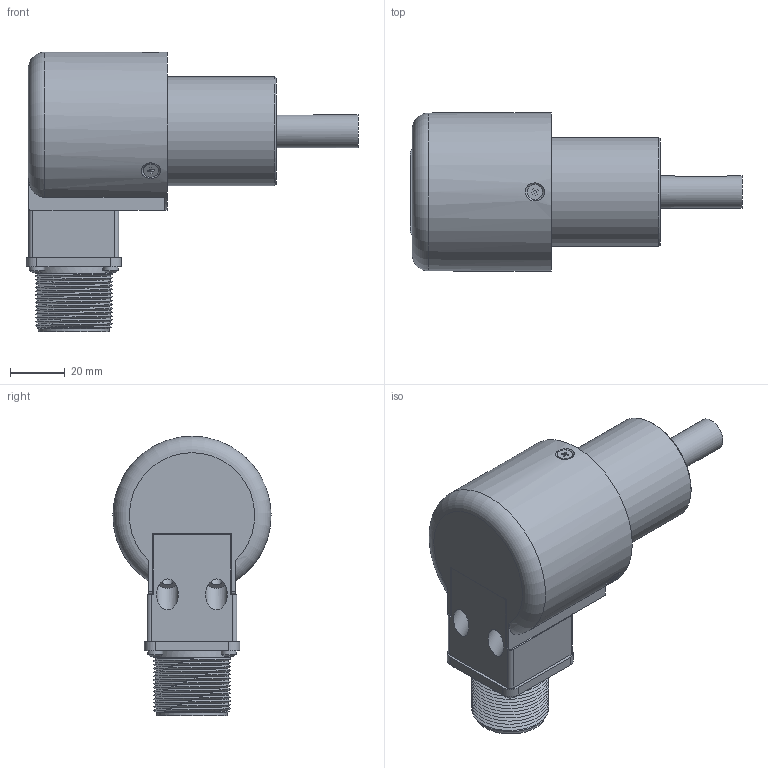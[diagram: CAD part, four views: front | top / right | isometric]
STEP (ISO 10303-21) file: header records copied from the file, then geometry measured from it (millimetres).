
FILE_DESCRIPTION( ( 'Unknown' ), '1' );
FILE_NAME( 'C:/Users/malfermoa/Desktop/step/EL_58T_albero 12 X uscita MR.stp', 'Unknown', ( 'Unknown' ), ( 'Unknown' ), 'PSStep 15.0.49', 'Unknown', ' ' );
FILE_SCHEMA( ( 'AUTOMOTIVE_DESIGN { 1 0 10303 214 1 1 1 1 }' ) );
Length unit declared in the file: millimetre
Products named in the file (3): Assem1; 23290011 - 6001 12x28x8; 41320065-A1
Assembly tree (2 placements, depth 2):
  Assem1
    23290011 - 6001 12x28x8
    41320065-A1
Bounding box: 121.8 x 58 x 102.5 mm (x, y, z)
Volume: 127066.8 mm3; surface area: 62427.6 mm2
Topology: 2 solids, 10 shells, 578 faces, 1533 edges, 1005 vertices
Faces by surface type: plane 246, cylinder 235, bspline 48, cone 35, sphere 12, torus 2
Full cylindrical faces by diameter (mm): 2 x22, 2.013 x2, 2.2 x12, 2.459 x6, 2.5 x4, 2.6 x10, 3 x4, 3.5 x3, 4.5 x2, 5.6 x7, 6 x1, 7 x1, 8 x2, 10 x1, 10.5 x1, 11 x1, 12 x28, 14.5 x2, 19 x1, 22 x1, 23 x1, 23.9 x1, 25 x1, 25.2 x1, 25.5 x2, 26 x15, 28 x23, 28.4 x1, 40 x1, 49.6 x1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
Entity records: 39162 total; most frequent: CARTESIAN_POINT 24347, ORIENTED_EDGE 2132, DIRECTION 2062, EDGE_CURVE 1066, AXIS2_PLACEMENT_3D 775, VERTEX_POINT 773, EDGE_LOOP 719, FACE_OUTER_BOUND 604
